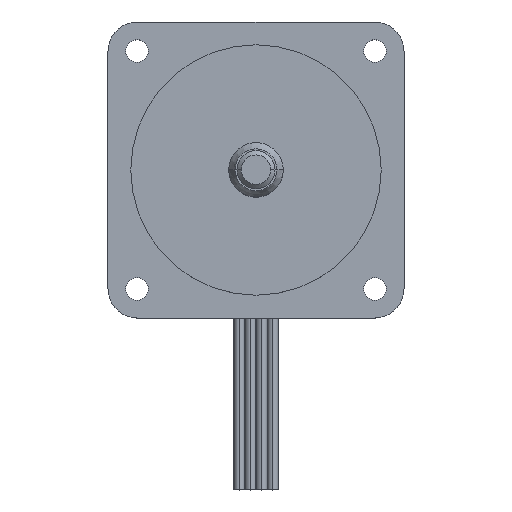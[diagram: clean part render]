
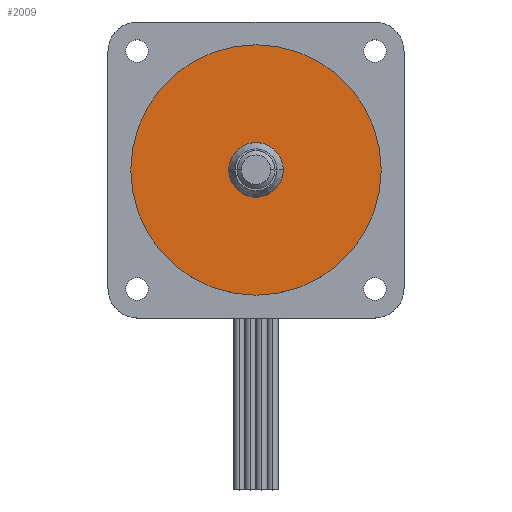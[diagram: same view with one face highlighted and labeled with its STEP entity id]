
A CAD part, top view. The second image highlights one B-rep face of the part: STEP entity #2009.
In plain terms, the highlighted planar face has unit normal (0, 0, 1).
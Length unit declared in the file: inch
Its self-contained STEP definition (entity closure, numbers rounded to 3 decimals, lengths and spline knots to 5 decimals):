
#18 = CIRCLE ( 'NONE', #2589, 1.4375 ) ;
#104 = AXIS2_PLACEMENT_3D ( 'NONE', #159, #639, #1810 ) ;
#159 = CARTESIAN_POINT ( 'NONE',  ( 0., 0., 0.05906 ) ) ;
#292 = DIRECTION ( 'NONE',  ( 1., 0., 0. ) ) ;
#308 = CIRCLE ( 'NONE', #1918, 0.3125 ) ;
#321 = PLANE ( 'NONE',  #104 ) ;
#384 = CARTESIAN_POINT ( 'NONE',  ( 1.4375, 0., 0.05906 ) ) ;
#639 = DIRECTION ( 'NONE',  ( 0., 0., 1. ) ) ;
#645 = CARTESIAN_POINT ( 'NONE',  ( 0., 0., 0.05906 ) ) ;
#682 = CARTESIAN_POINT ( 'NONE',  ( 0.3125, 0., 0.05906 ) ) ;
#719 = VERTEX_POINT ( 'NONE', #2195 ) ;
#779 = AXIS2_PLACEMENT_3D ( 'NONE', #1122, #1815, #1588 ) ;
#1063 = DIRECTION ( 'NONE',  ( 0., 0., 1. ) ) ;
#1076 = FACE_OUTER_BOUND ( 'NONE', #3130, .T. ) ;
#1122 = CARTESIAN_POINT ( 'NONE',  ( 0., 0., 0.05906 ) ) ;
#1124 = EDGE_CURVE ( 'NONE', #719, #2405, #2636, .T. ) ;
#1130 = CIRCLE ( 'NONE', #1451, 1.4375 ) ;
#1211 = EDGE_CURVE ( 'NONE', #2405, #719, #308, .T. ) ;
#1214 = DIRECTION ( 'NONE',  ( 1., 0., 0. ) ) ;
#1261 = CARTESIAN_POINT ( 'NONE',  ( -1.4375, 0., 0.05906 ) ) ;
#1357 = EDGE_CURVE ( 'NONE', #2712, #2400, #18, .T. ) ;
#1397 = DIRECTION ( 'NONE',  ( 0., 0., 1. ) ) ;
#1444 = ORIENTED_EDGE ( 'NONE', *, *, #1211, .F. ) ;
#1451 = AXIS2_PLACEMENT_3D ( 'NONE', #2831, #2814, #2097 ) ;
#1504 = ORIENTED_EDGE ( 'NONE', *, *, #1952, .T. ) ;
#1567 = FACE_BOUND ( 'NONE', #1818, .T. ) ;
#1588 = DIRECTION ( 'NONE',  ( 1., 0., 0. ) ) ;
#1810 = DIRECTION ( 'NONE',  ( 1., 0., 0. ) ) ;
#1815 = DIRECTION ( 'NONE',  ( 0., 0., 1. ) ) ;
#1818 = EDGE_LOOP ( 'NONE', ( #1444, #2085 ) ) ;
#1918 = AXIS2_PLACEMENT_3D ( 'NONE', #645, #1397, #1214 ) ;
#1952 = EDGE_CURVE ( 'NONE', #2400, #2712, #1130, .T. ) ;
#1989 = CARTESIAN_POINT ( 'NONE',  ( 0., 0., 0.05906 ) ) ;
#2009 = ADVANCED_FACE ( 'NONE', ( #1567, #1076 ), #321, .T. ) ;
#2085 = ORIENTED_EDGE ( 'NONE', *, *, #1124, .F. ) ;
#2097 = DIRECTION ( 'NONE',  ( 1., 0., 0. ) ) ;
#2195 = CARTESIAN_POINT ( 'NONE',  ( -0.3125, 0., 0.05906 ) ) ;
#2400 = VERTEX_POINT ( 'NONE', #384 ) ;
#2405 = VERTEX_POINT ( 'NONE', #682 ) ;
#2499 = ORIENTED_EDGE ( 'NONE', *, *, #1357, .T. ) ;
#2589 = AXIS2_PLACEMENT_3D ( 'NONE', #1989, #1063, #292 ) ;
#2636 = CIRCLE ( 'NONE', #779, 0.3125 ) ;
#2712 = VERTEX_POINT ( 'NONE', #1261 ) ;
#2814 = DIRECTION ( 'NONE',  ( 0., 0., 1. ) ) ;
#2831 = CARTESIAN_POINT ( 'NONE',  ( 0., 0., 0.05906 ) ) ;
#3130 = EDGE_LOOP ( 'NONE', ( #2499, #1504 ) ) ;
